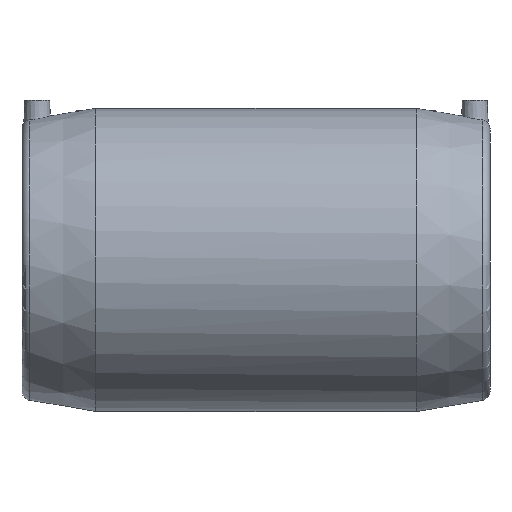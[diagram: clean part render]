
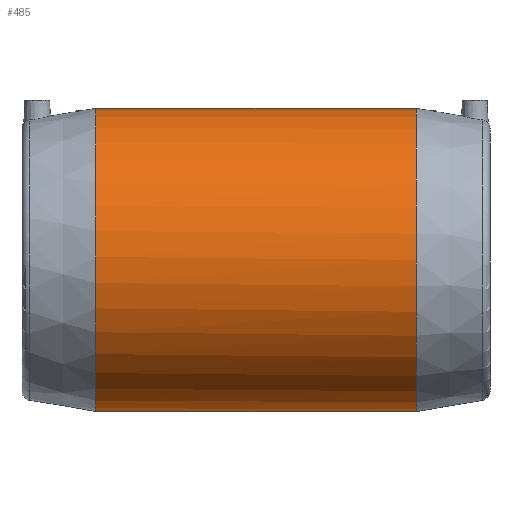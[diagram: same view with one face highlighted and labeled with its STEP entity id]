
A CAD part, front view. The second image highlights one B-rep face of the part: STEP entity #485.
In plain terms, the highlighted cylindrical face has radius 115 mm (diameter 230 mm), a full revolution.
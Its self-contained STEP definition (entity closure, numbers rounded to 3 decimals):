
#77=B_SPLINE_CURVE_WITH_KNOTS('',3,(#1244,#1245,#1246,#1247,#1248,#1249,
#1250,#1251,#1252,#1253,#1254,#1255,#1256,#1257,#1258,#1259,#1260,#1261,
#1262,#1263,#1264,#1265,#1266,#1267,#1268,#1269,#1270,#1271,#1272,#1273,
#1274,#1275,#1276,#1277,#1278,#1279,#1280,#1281,#1282,#1283,#1284,#1285,
#1286,#1287,#1288,#1289,#1290,#1291,#1292,#1293,#1294,#1295,#1296,#1297,
#1298,#1299,#1300,#1301,#1302,#1303,#1304,#1305,#1306,#1307,#1308,#1309,
#1310,#1311,#1312,#1313,#1314,#1315,#1316,#1317,#1318,#1319),
 .UNSPECIFIED.,.T.,.F.,(1,1,1,1,1,1,1,1,1,1,1,1,1,1,1,1,1,1,1,1,1,1,1,1,
1,1,1,1,1,1,1,1,1,1,1,1,1,1,1,1,1,1,1,1,1,1,1,1,1,1,1,1,1,1,1,1,1,1,1,1,
1,1,1,1,1,1,1,1,1,1,1,1,1,1,1,1,1,1,1,1),(-0.016,-0.01,
-0.005,0.,0.01,0.021,0.031,
0.042,0.052,0.063,0.073,
0.083,0.094,0.104,0.115,
0.125,0.136,0.141,0.146,
0.157,0.162,0.167,0.177,
0.183,0.188,0.198,0.209,
0.219,0.23,0.24,0.25,
0.261,0.271,0.282,0.287,
0.292,0.303,0.313,0.324,
0.334,0.344,0.355,0.365,
0.376,0.386,0.397,0.407,
0.417,0.428,0.438,0.449,
0.459,0.47,0.475,0.48,
0.491,0.496,0.501,0.511,
0.517,0.522,0.532,0.543,
0.553,0.564,0.574,0.584,
0.595,0.605,0.616,0.626,
0.637,0.647,0.652,0.658,
0.663,0.668,0.678,0.689,
0.699),.UNSPECIFIED.);
#142=ORIENTED_EDGE('',*,*,#215,.T.);
#143=ORIENTED_EDGE('',*,*,#214,.F.);
#144=ORIENTED_EDGE('',*,*,#219,.T.);
#214=EDGE_CURVE('',#263,#263,#297,.T.);
#215=EDGE_CURVE('',#264,#264,#77,.T.);
#219=EDGE_CURVE('',#268,#268,#300,.T.);
#263=VERTEX_POINT('',#1003);
#264=VERTEX_POINT('',#1320);
#268=VERTEX_POINT('',#1341);
#297=CIRCLE('',#552,115.);
#300=CIRCLE('',#558,115.);
#354=EDGE_LOOP('',(#142));
#355=EDGE_LOOP('',(#143));
#356=EDGE_LOOP('',(#144));
#426=FACE_BOUND('',#354,.T.);
#427=FACE_BOUND('',#355,.T.);
#428=FACE_BOUND('',#356,.T.);
#457=CYLINDRICAL_SURFACE('',#557,115.);
#485=ADVANCED_FACE('',(#426,#427,#428),#457,.T.);
#552=AXIS2_PLACEMENT_3D('',#1002,#660,#661);
#557=AXIS2_PLACEMENT_3D('',#1339,#670,#671);
#558=AXIS2_PLACEMENT_3D('',#1340,#672,#673);
#660=DIRECTION('',(-1.,0.,0.));
#661=DIRECTION('',(0.,0.,1.));
#670=DIRECTION('',(-1.,0.,0.));
#671=DIRECTION('',(0.,0.,1.));
#672=DIRECTION('',(-1.,0.,0.));
#673=DIRECTION('',(0.,0.,1.));
#1002=CARTESIAN_POINT('',(-121.5,0.,0.));
#1003=CARTESIAN_POINT('',(-121.5,0.,115.));
#1244=CARTESIAN_POINT('',(101.899,114.92,-5.232));
#1245=CARTESIAN_POINT('',(102.101,115.08,1.744));
#1246=CARTESIAN_POINT('',(101.593,114.679,10.465));
#1247=CARTESIAN_POINT('',(99.829,113.292,20.579));
#1248=CARTESIAN_POINT('',(97.009,111.092,30.267));
#1249=CARTESIAN_POINT('',(93.167,108.127,39.542));
#1250=CARTESIAN_POINT('',(88.54,104.611,48.049));
#1251=CARTESIAN_POINT('',(83.118,100.575,55.989));
#1252=CARTESIAN_POINT('',(77.083,96.203,63.183));
#1253=CARTESIAN_POINT('',(70.535,91.624,69.64));
#1254=CARTESIAN_POINT('',(63.474,86.903,75.436));
#1255=CARTESIAN_POINT('',(55.833,82.096,80.627));
#1256=CARTESIAN_POINT('',(47.779,77.432,85.098));
#1257=CARTESIAN_POINT('',(39.31,73.055,88.869));
#1258=CARTESIAN_POINT('',(31.833,69.775,91.434));
#1259=CARTESIAN_POINT('',(25.547,67.487,93.123));
#1260=CARTESIAN_POINT('',(19.006,65.47,94.557));
#1261=CARTESIAN_POINT('',(12.319,64.014,95.539));
#1262=CARTESIAN_POINT('',(5.453,63.238,96.052));
#1263=CARTESIAN_POINT('',(-1.549,62.958,96.235));
#1264=CARTESIAN_POINT('',(-8.419,63.452,95.914));
#1265=CARTESIAN_POINT('',(-15.198,64.642,95.115));
#1266=CARTESIAN_POINT('',(-21.911,66.268,93.997));
#1267=CARTESIAN_POINT('',(-29.879,68.94,92.082));
#1268=CARTESIAN_POINT('',(-38.964,72.885,89.01));
#1269=CARTESIAN_POINT('',(-47.612,77.339,85.185));
#1270=CARTESIAN_POINT('',(-55.66,81.993,80.729));
#1271=CARTESIAN_POINT('',(-63.234,86.747,75.613));
#1272=CARTESIAN_POINT('',(-70.359,91.501,69.805));
#1273=CARTESIAN_POINT('',(-77.028,96.164,63.246));
#1274=CARTESIAN_POINT('',(-83.039,100.518,56.086));
#1275=CARTESIAN_POINT('',(-87.525,103.855,49.55));
#1276=CARTESIAN_POINT('',(-90.771,106.306,43.946));
#1277=CARTESIAN_POINT('',(-93.775,108.596,38.071));
#1278=CARTESIAN_POINT('',(-96.943,111.041,30.439));
#1279=CARTESIAN_POINT('',(-99.796,113.267,20.746));
#1280=CARTESIAN_POINT('',(-101.591,114.677,10.477));
#1281=CARTESIAN_POINT('',(-102.199,115.157,0.187));
#1282=CARTESIAN_POINT('',(-101.611,114.693,-10.317));
#1283=CARTESIAN_POINT('',(-99.871,113.325,-20.39));
#1284=CARTESIAN_POINT('',(-97.071,111.14,-30.092));
#1285=CARTESIAN_POINT('',(-93.233,108.178,-39.404));
#1286=CARTESIAN_POINT('',(-88.609,104.663,-47.935));
#1287=CARTESIAN_POINT('',(-83.207,100.64,-55.874));
#1288=CARTESIAN_POINT('',(-77.14,96.244,-63.124));
#1289=CARTESIAN_POINT('',(-70.58,91.654,-69.6));
#1290=CARTESIAN_POINT('',(-63.508,86.925,-75.41));
#1291=CARTESIAN_POINT('',(-55.878,82.123,-80.6));
#1292=CARTESIAN_POINT('',(-47.765,77.423,-85.108));
#1293=CARTESIAN_POINT('',(-39.235,73.018,-88.9));
#1294=CARTESIAN_POINT('',(-31.695,69.716,-91.48));
#1295=CARTESIAN_POINT('',(-25.324,67.412,-93.177));
#1296=CARTESIAN_POINT('',(-18.834,65.428,-94.585));
#1297=CARTESIAN_POINT('',(-12.155,63.983,-95.56));
#1298=CARTESIAN_POINT('',(-5.209,63.22,-96.064));
#1299=CARTESIAN_POINT('',(1.705,62.966,-96.23));
#1300=CARTESIAN_POINT('',(8.558,63.466,-95.905));
#1301=CARTESIAN_POINT('',(15.396,64.684,-95.087));
#1302=CARTESIAN_POINT('',(22.046,66.311,-93.967));
#1303=CARTESIAN_POINT('',(29.998,68.984,-92.049));
#1304=CARTESIAN_POINT('',(39.148,72.973,-88.938));
#1305=CARTESIAN_POINT('',(47.712,77.395,-85.133));
#1306=CARTESIAN_POINT('',(55.752,82.048,-80.673));
#1307=CARTESIAN_POINT('',(63.332,86.81,-75.543));
#1308=CARTESIAN_POINT('',(70.514,91.608,-69.665));
#1309=CARTESIAN_POINT('',(77.09,96.209,-63.174));
#1310=CARTESIAN_POINT('',(83.074,100.544,-56.038));
#1311=CARTESIAN_POINT('',(88.44,104.536,-48.216));
#1312=CARTESIAN_POINT('',(93.162,108.123,-39.556));
#1313=CARTESIAN_POINT('',(96.96,111.054,-30.394));
#1314=CARTESIAN_POINT('',(99.334,112.906,-22.305));
#1315=CARTESIAN_POINT('',(100.712,113.986,-15.524));
#1316=CARTESIAN_POINT('',(101.451,114.567,-10.402));
#1317=CARTESIAN_POINT('',(101.899,114.92,-5.232));
#1318=CARTESIAN_POINT('',(102.101,115.08,1.744));
#1319=CARTESIAN_POINT('',(101.593,114.679,10.465));
#1320=CARTESIAN_POINT('',(102.,115.,0.));
#1339=CARTESIAN_POINT('',(-60.,0.,0.));
#1340=CARTESIAN_POINT('',(121.5,0.,0.));
#1341=CARTESIAN_POINT('',(121.5,0.,115.));
